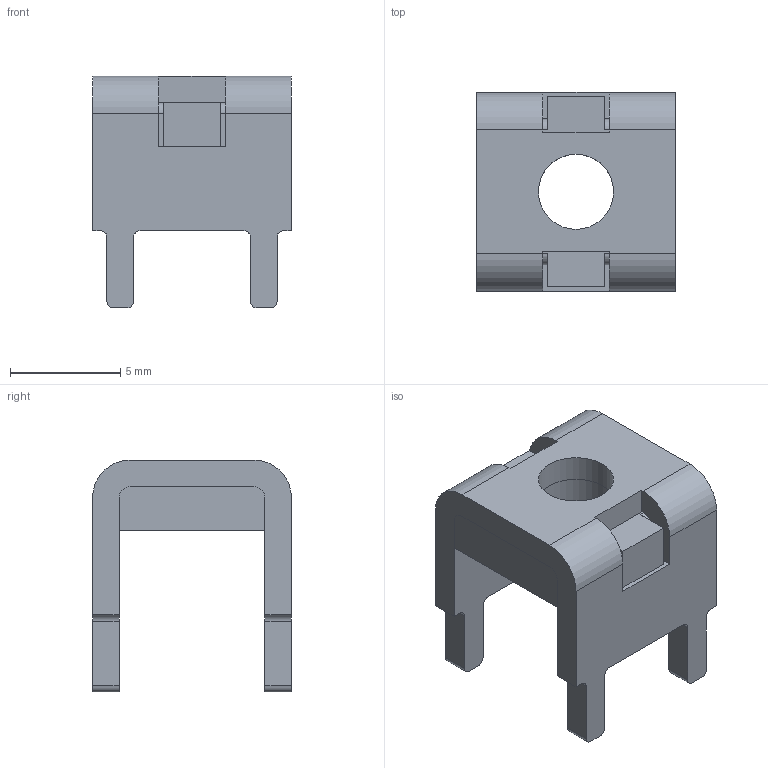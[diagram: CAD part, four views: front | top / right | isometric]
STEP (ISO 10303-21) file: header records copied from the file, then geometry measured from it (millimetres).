
FILE_DESCRIPTION(/* description */ (''),/* implementation_level */ '2;1');
FILE_NAME(/* name */ '9x9料厚1.2铁板高7.0mm 脚长3.5mm.stp',/* time_stamp */ '2025-06-27T09:30:46+08:00',/* author */ (''),/* organization */ (''),/* preprocessor_version */ 'ST-DEVELOPER v16',/* originating_system */ 'SIEMENS PLM Software NX 10.0',/* authorisation */ '');
FILE_SCHEMA (('AP203_CONFIGURATION_CONTROLLED_3D_DESIGN_OF_MECHANICAL_PARTS_AND_ASSEMBLIES_MIM_LF { 1 0 10303 403 2 1 2}'));
Length unit declared in the file: millimetre
Products named in the file (1): Admi2ABC7C88fxss
Bounding box: 9 x 9 x 10.5 mm (x, y, z)
Volume: 307.9 mm3; surface area: 672.5 mm2
Topology: 2 solids, 2 shells, 78 faces, 235 edges, 157 vertices
Faces by surface type: plane 48, cylinder 30
Full cylindrical faces by diameter (mm): 3.4 x2
Entity records: 2734 total; most frequent: CARTESIAN_POINT 467, ORIENTED_EDGE 464, DIRECTION 450, EDGE_CURVE 232, LINE 172, VECTOR 172, VERTEX_POINT 156, AXIS2_PLACEMENT_3D 139
